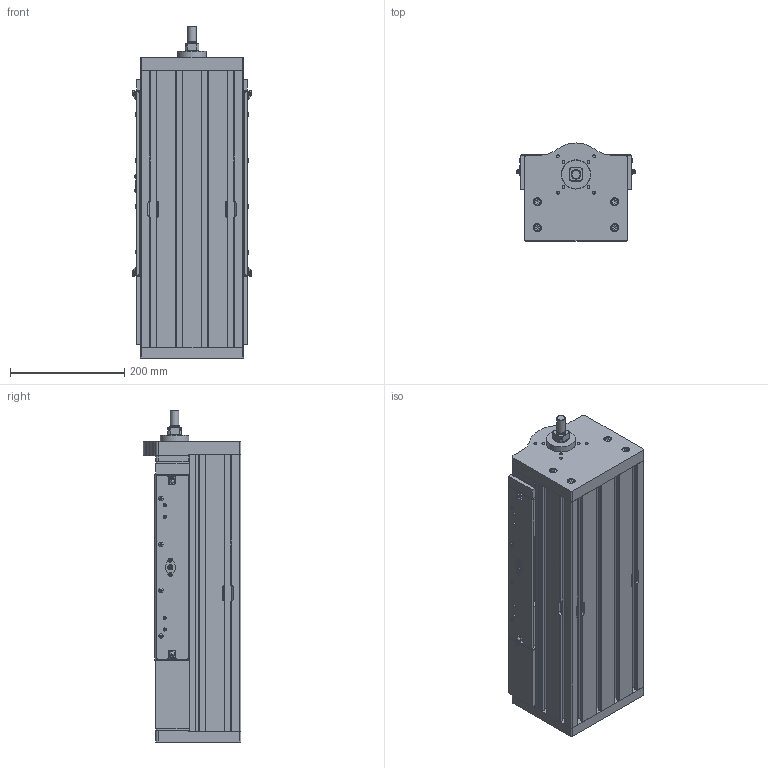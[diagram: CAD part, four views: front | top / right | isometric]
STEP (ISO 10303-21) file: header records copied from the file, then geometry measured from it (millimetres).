
FILE_DESCRIPTION(/* description */ ('Asse VU-K180LE-25H-25-S'),/* implementation_level */ '2;1');
FILE_NAME(/* name */ 'VU-K180LE-25H-25-S-CLIENTE.stp',/* time_stamp */ '2025-02-06T09:34:13+01:00',/* author */ ('davide.cavedon'),/* organization */ (''),/* preprocessor_version */ 'ST-DEVELOPER v20',/* originating_system */ 'Autodesk Inventor 2024',/* authorisation */ '');
FILE_SCHEMA (('CONFIG_CONTROL_DESIGN'));
Products named in the file (5): VU-K180LE-25H-25-S-CLIENTE; C_VU-K180LE-25H-25-S-001; C_VU-K180SE-25H-25-N-003; C_VU-K180SE-25H-25-N-002; C_VU-K180LE-25H-25-N-002
Assembly tree (4 placements, depth 2):
  VU-K180LE-25H-25-S-CLIENTE
    C_VU-K180LE-25H-25-S-001
    C_VU-K180SE-25H-25-N-003
    C_VU-K180SE-25H-25-N-002
    C_VU-K180LE-25H-25-N-002
Bounding box: 209.02 x 170.5 x 580 mm (x, y, z)
Volume: 12506148.1 mm3; surface area: 1285569 mm2
Topology: 11 solids, 97 shells, 2818 faces, 7389 edges, 4837 vertices
Faces by surface type: plane 1687, cylinder 669, cone 248, torus 104, bspline 104, sphere 6
Full cylindrical faces by diameter (mm): 0.5 x4, 1 x8, 2 x5, 2.459 x2, 2.5 x2, 3 x10, 3.242 x32, 3.5 x2, 4 x8, 4.134 x8, 4.25 x2, 4.3 x2, 4.5 x11, 4.917 x24, 4.95 x2, 5 x14, 5.15 x2, 5.5 x8, 5.7 x2, 5.85 x2, 6 x36, 6.6 x20, 6.647 x26, 6.9 x4, 7 x6, 7.3 x8, 7.6 x10, 7.847 x4, 8 x10, 8.15 x2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
Entity records: 99515 total; most frequent: CARTESIAN_POINT 28215, ORIENTED_EDGE 14458, DIRECTION 14086, EDGE_CURVE 7287, VERTEX_POINT 4837, AXIS2_PLACEMENT_3D 4756, LINE 4574, VECTOR 4574
